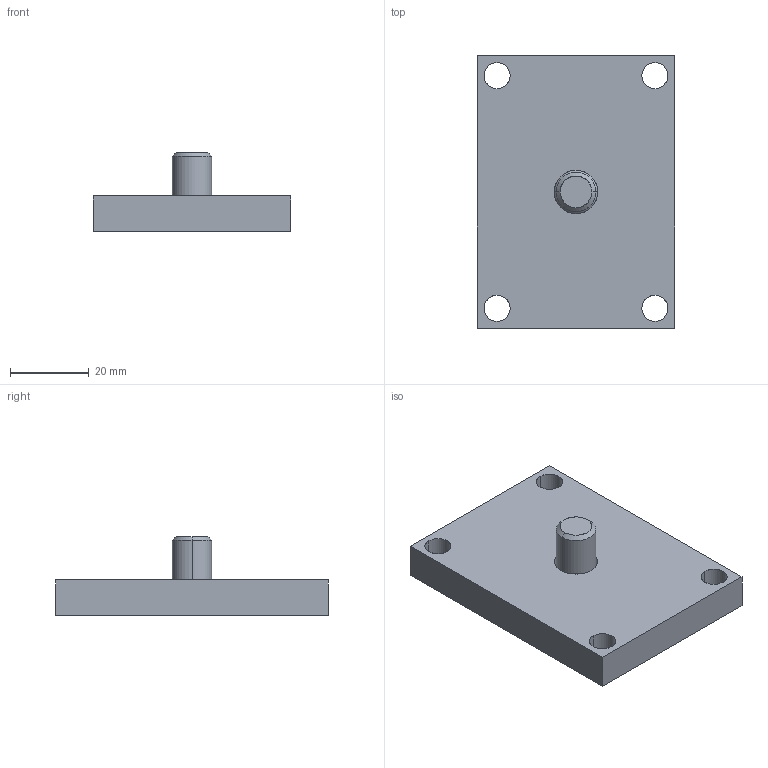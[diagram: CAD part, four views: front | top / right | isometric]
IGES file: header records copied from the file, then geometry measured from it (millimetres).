
Global section: file name: E:\UnigraphicsGraphicData\MISUMI_PRESS-PARTS\IGES\3d_bm-50_03391_r00.igs; native system: NX V5.0; preprocessor: UGS NX IGES V5.0; author: MISUMI; date: 20110105.160037; units: millimetre
Bounding box: 50 x 69 x 20 mm (x, y, z)
Surface area: 10809.7 mm2 (no closed solid volume)
Topology: 0 solids, 0 shells, 33 faces, 232 edges, 232 vertices
Faces by surface type: bspline 33
